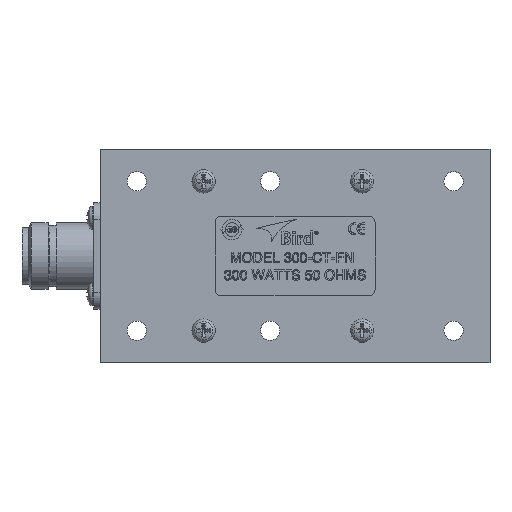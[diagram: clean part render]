
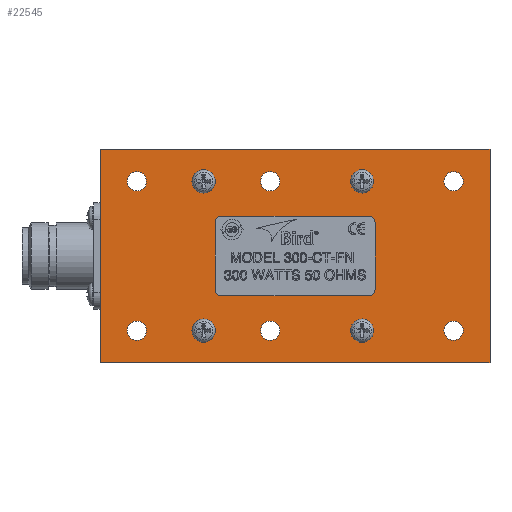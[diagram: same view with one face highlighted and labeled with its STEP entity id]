
A CAD part, front view. The second image highlights one B-rep face of the part: STEP entity #22545.
In plain terms, the highlighted planar face has unit normal (0, -1, 0).
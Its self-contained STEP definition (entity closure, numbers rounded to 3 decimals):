
#644=CIRCLE('',#22641,2.299);
#645=CIRCLE('',#22643,2.299);
#646=CIRCLE('',#22645,2.299);
#647=CIRCLE('',#22647,2.299);
#648=CIRCLE('',#22649,2.299);
#649=CIRCLE('',#22651,2.299);
#865=CIRCLE('',#23580,1.588);
#867=CIRCLE('',#23583,1.588);
#869=CIRCLE('',#23586,1.588);
#871=CIRCLE('',#23589,1.588);
#886=CIRCLE('',#23631,2.781);
#901=CIRCLE('',#23678,2.781);
#916=CIRCLE('',#23725,2.781);
#931=CIRCLE('',#23772,2.781);
#5368=ORIENTED_EDGE('',*,*,#7504,.F.);
#5369=ORIENTED_EDGE('',*,*,#7489,.T.);
#5370=ORIENTED_EDGE('',*,*,#7505,.F.);
#5371=ORIENTED_EDGE('',*,*,#7493,.T.);
#5372=ORIENTED_EDGE('',*,*,#7507,.F.);
#5373=ORIENTED_EDGE('',*,*,#7497,.T.);
#5374=ORIENTED_EDGE('',*,*,#7509,.F.);
#5375=ORIENTED_EDGE('',*,*,#7501,.T.);
#5376=ORIENTED_EDGE('',*,*,#7555,.F.);
#5377=ORIENTED_EDGE('',*,*,#7606,.F.);
#5378=ORIENTED_EDGE('',*,*,#7657,.F.);
#5379=ORIENTED_EDGE('',*,*,#7708,.F.);
#5380=ORIENTED_EDGE('',*,*,#5547,.T.);
#5381=ORIENTED_EDGE('',*,*,#5548,.T.);
#5382=ORIENTED_EDGE('',*,*,#5549,.T.);
#5383=ORIENTED_EDGE('',*,*,#5546,.T.);
#5384=ORIENTED_EDGE('',*,*,#5545,.T.);
#5385=ORIENTED_EDGE('',*,*,#5544,.T.);
#5386=ORIENTED_EDGE('',*,*,#5532,.F.);
#5387=ORIENTED_EDGE('',*,*,#5535,.F.);
#5388=ORIENTED_EDGE('',*,*,#5537,.F.);
#5389=ORIENTED_EDGE('',*,*,#5527,.F.);
#5527=EDGE_CURVE('',#7787,#7789,#9339,.T.);
#5532=EDGE_CURVE('',#7792,#7787,#9344,.T.);
#5535=EDGE_CURVE('',#7794,#7792,#9347,.T.);
#5537=EDGE_CURVE('',#7789,#7794,#9349,.T.);
#5544=EDGE_CURVE('',#7801,#7801,#644,.T.);
#5545=EDGE_CURVE('',#7802,#7802,#645,.T.);
#5546=EDGE_CURVE('',#7803,#7803,#646,.T.);
#5547=EDGE_CURVE('',#7804,#7804,#647,.T.);
#5548=EDGE_CURVE('',#7805,#7805,#648,.T.);
#5549=EDGE_CURVE('',#7806,#7806,#649,.T.);
#7489=EDGE_CURVE('',#9117,#9116,#865,.F.);
#7493=EDGE_CURVE('',#9121,#9120,#867,.F.);
#7497=EDGE_CURVE('',#9125,#9124,#869,.F.);
#7501=EDGE_CURVE('',#9129,#9128,#871,.F.);
#7504=EDGE_CURVE('',#9117,#9128,#10830,.T.);
#7505=EDGE_CURVE('',#9121,#9116,#10831,.T.);
#7507=EDGE_CURVE('',#9125,#9120,#10833,.T.);
#7509=EDGE_CURVE('',#9129,#9124,#10835,.T.);
#7555=EDGE_CURVE('',#9164,#9164,#886,.F.);
#7606=EDGE_CURVE('',#9199,#9199,#901,.F.);
#7657=EDGE_CURVE('',#9234,#9234,#916,.F.);
#7708=EDGE_CURVE('',#9269,#9269,#931,.F.);
#7787=VERTEX_POINT('',#28093);
#7789=VERTEX_POINT('',#28096);
#7792=VERTEX_POINT('',#28104);
#7794=VERTEX_POINT('',#28110);
#7801=VERTEX_POINT('',#28130);
#7802=VERTEX_POINT('',#28133);
#7803=VERTEX_POINT('',#28136);
#7804=VERTEX_POINT('',#28139);
#7805=VERTEX_POINT('',#28142);
#7806=VERTEX_POINT('',#28145);
#9116=VERTEX_POINT('',#35542);
#9117=VERTEX_POINT('',#35544);
#9120=VERTEX_POINT('',#35551);
#9121=VERTEX_POINT('',#35553);
#9124=VERTEX_POINT('',#35560);
#9125=VERTEX_POINT('',#35562);
#9128=VERTEX_POINT('',#35569);
#9129=VERTEX_POINT('',#35571);
#9164=VERTEX_POINT('',#35687);
#9199=VERTEX_POINT('',#35805);
#9234=VERTEX_POINT('',#35923);
#9269=VERTEX_POINT('',#36041);
#9339=LINE('',#28095,#10922);
#9344=LINE('',#28105,#10927);
#9347=LINE('',#28111,#10930);
#9349=LINE('',#28114,#10932);
#10830=LINE('',#35575,#12413);
#10831=LINE('',#35577,#12414);
#10833=LINE('',#35580,#12416);
#10835=LINE('',#35583,#12418);
#10922=VECTOR('',#23930,1000.);
#10927=VECTOR('',#23937,1000.);
#10930=VECTOR('',#23942,1000.);
#10932=VECTOR('',#23946,1000.);
#12413=VECTOR('',#27343,1000.);
#12414=VECTOR('',#27346,1000.);
#12416=VECTOR('',#27350,1000.);
#12418=VECTOR('',#27354,1000.);
#13473=EDGE_LOOP('',(#5368,#5369,#5370,#5371,#5372,#5373,#5374,#5375));
#13474=EDGE_LOOP('',(#5376));
#13475=EDGE_LOOP('',(#5377));
#13476=EDGE_LOOP('',(#5378));
#13477=EDGE_LOOP('',(#5379));
#13478=EDGE_LOOP('',(#5380));
#13479=EDGE_LOOP('',(#5381));
#13480=EDGE_LOOP('',(#5382));
#13481=EDGE_LOOP('',(#5383));
#13482=EDGE_LOOP('',(#5384));
#13483=EDGE_LOOP('',(#5385));
#13484=EDGE_LOOP('',(#5386,#5387,#5388,#5389));
#14587=FACE_BOUND('',#13473,.T.);
#14588=FACE_BOUND('',#13474,.T.);
#14589=FACE_BOUND('',#13475,.T.);
#14590=FACE_BOUND('',#13476,.T.);
#14591=FACE_BOUND('',#13477,.T.);
#14592=FACE_BOUND('',#13478,.T.);
#14593=FACE_BOUND('',#13479,.T.);
#14594=FACE_BOUND('',#13480,.T.);
#14595=FACE_BOUND('',#13481,.T.);
#14596=FACE_BOUND('',#13482,.T.);
#14597=FACE_BOUND('',#13483,.T.);
#14598=FACE_BOUND('',#13484,.T.);
#15340=PLANE('',#23784);
#22545=ADVANCED_FACE('',(#14587,#14588,#14589,#14590,#14591,#14592,#14593,
#14594,#14595,#14596,#14597,#14598),#15340,.F.);
#22641=AXIS2_PLACEMENT_3D('',#28129,#23963,#23964);
#22643=AXIS2_PLACEMENT_3D('',#28132,#23967,#23968);
#22645=AXIS2_PLACEMENT_3D('',#28135,#23971,#23972);
#22647=AXIS2_PLACEMENT_3D('',#28138,#23975,#23976);
#22649=AXIS2_PLACEMENT_3D('',#28141,#23979,#23980);
#22651=AXIS2_PLACEMENT_3D('',#28144,#23983,#23984);
#23580=AXIS2_PLACEMENT_3D('',#35543,#27313,#27314);
#23583=AXIS2_PLACEMENT_3D('',#35552,#27321,#27322);
#23586=AXIS2_PLACEMENT_3D('',#35561,#27329,#27330);
#23589=AXIS2_PLACEMENT_3D('',#35570,#27337,#27338);
#23631=AXIS2_PLACEMENT_3D('',#35686,#27444,#27445);
#23678=AXIS2_PLACEMENT_3D('',#35804,#27558,#27559);
#23725=AXIS2_PLACEMENT_3D('',#35922,#27672,#27673);
#23772=AXIS2_PLACEMENT_3D('',#36040,#27786,#27787);
#23784=AXIS2_PLACEMENT_3D('',#36059,#27816,#27817);
#23930=DIRECTION('',(0.,0.,1.));
#23937=DIRECTION('',(-1.,0.,0.));
#23942=DIRECTION('',(0.,0.,-1.));
#23946=DIRECTION('',(1.,0.,0.));
#23963=DIRECTION('',(0.,1.,0.));
#23964=DIRECTION('',(0.,0.,1.));
#23967=DIRECTION('',(0.,1.,0.));
#23968=DIRECTION('',(0.,0.,1.));
#23971=DIRECTION('',(0.,1.,0.));
#23972=DIRECTION('',(0.,0.,1.));
#23975=DIRECTION('',(0.,1.,0.));
#23976=DIRECTION('',(0.,0.,1.));
#23979=DIRECTION('',(0.,1.,0.));
#23980=DIRECTION('',(0.,0.,1.));
#23983=DIRECTION('',(0.,1.,0.));
#23984=DIRECTION('',(0.,0.,1.));
#27313=DIRECTION('',(0.,-1.,0.));
#27314=DIRECTION('',(0.,0.,-1.));
#27321=DIRECTION('',(0.,-1.,0.));
#27322=DIRECTION('',(0.,0.,-1.));
#27329=DIRECTION('',(0.,-1.,0.));
#27330=DIRECTION('',(0.,0.,-1.));
#27337=DIRECTION('',(0.,-1.,0.));
#27338=DIRECTION('',(0.,0.,-1.));
#27343=DIRECTION('',(-1.,0.,0.));
#27346=DIRECTION('',(0.,0.,1.));
#27350=DIRECTION('',(1.,0.,0.));
#27354=DIRECTION('',(0.,0.,-1.));
#27444=DIRECTION('',(0.,1.,0.));
#27445=DIRECTION('',(-1.,0.,0.));
#27558=DIRECTION('',(0.,1.,0.));
#27559=DIRECTION('',(-1.,0.,0.));
#27672=DIRECTION('',(0.,1.,0.));
#27673=DIRECTION('',(-1.,0.,0.));
#27786=DIRECTION('',(0.,1.,0.));
#27787=DIRECTION('',(-1.,0.,0.));
#27816=DIRECTION('',(0.,1.,0.));
#27817=DIRECTION('',(0.,0.,1.));
#28093=CARTESIAN_POINT('',(0.,-26.213,-25.4));
#28095=CARTESIAN_POINT('',(0.,-26.213,-25.4));
#28096=CARTESIAN_POINT('',(0.,-26.213,25.4));
#28104=CARTESIAN_POINT('',(92.837,-26.213,-25.4));
#28105=CARTESIAN_POINT('',(0.,-26.213,-25.4));
#28110=CARTESIAN_POINT('',(92.837,-26.213,25.4));
#28111=CARTESIAN_POINT('',(92.837,-26.213,-25.4));
#28114=CARTESIAN_POINT('',(92.837,-26.213,25.4));
#28129=CARTESIAN_POINT('',(8.738,-26.213,-17.78));
#28130=CARTESIAN_POINT('',(8.738,-26.213,-15.481));
#28132=CARTESIAN_POINT('',(40.488,-26.213,-17.78));
#28133=CARTESIAN_POINT('',(40.488,-26.213,-15.481));
#28135=CARTESIAN_POINT('',(84.15,-26.213,-17.78));
#28136=CARTESIAN_POINT('',(84.15,-26.213,-15.481));
#28138=CARTESIAN_POINT('',(84.15,-26.213,17.78));
#28139=CARTESIAN_POINT('',(84.15,-26.213,20.079));
#28141=CARTESIAN_POINT('',(40.488,-26.213,17.78));
#28142=CARTESIAN_POINT('',(40.488,-26.213,20.079));
#28144=CARTESIAN_POINT('',(8.738,-26.213,17.78));
#28145=CARTESIAN_POINT('',(8.738,-26.213,20.079));
#35542=CARTESIAN_POINT('',(65.469,-26.213,7.938));
#35543=CARTESIAN_POINT('',(63.881,-26.213,7.938));
#35544=CARTESIAN_POINT('',(63.881,-26.213,9.525));
#35551=CARTESIAN_POINT('',(63.881,-26.213,-9.525));
#35552=CARTESIAN_POINT('',(63.881,-26.213,-7.938));
#35553=CARTESIAN_POINT('',(65.469,-26.213,-7.938));
#35560=CARTESIAN_POINT('',(27.369,-26.213,-7.938));
#35561=CARTESIAN_POINT('',(28.956,-26.213,-7.938));
#35562=CARTESIAN_POINT('',(28.956,-26.213,-9.525));
#35569=CARTESIAN_POINT('',(28.956,-26.213,9.525));
#35570=CARTESIAN_POINT('',(28.956,-26.213,7.938));
#35571=CARTESIAN_POINT('',(27.369,-26.213,7.938));
#35575=CARTESIAN_POINT('',(65.469,-26.213,9.525));
#35577=CARTESIAN_POINT('',(65.469,-26.213,-9.525));
#35580=CARTESIAN_POINT('',(27.369,-26.213,-9.525));
#35583=CARTESIAN_POINT('',(27.369,-26.213,9.525));
#35686=CARTESIAN_POINT('',(24.638,-26.213,-17.78));
#35687=CARTESIAN_POINT('',(21.857,-26.213,-17.78));
#35804=CARTESIAN_POINT('',(62.357,-26.213,-17.78));
#35805=CARTESIAN_POINT('',(59.576,-26.213,-17.78));
#35922=CARTESIAN_POINT('',(24.638,-26.213,17.78));
#35923=CARTESIAN_POINT('',(21.857,-26.213,17.78));
#36040=CARTESIAN_POINT('',(62.357,-26.213,17.78));
#36041=CARTESIAN_POINT('',(59.576,-26.213,17.78));
#36059=CARTESIAN_POINT('',(0.,-26.213,0.));
